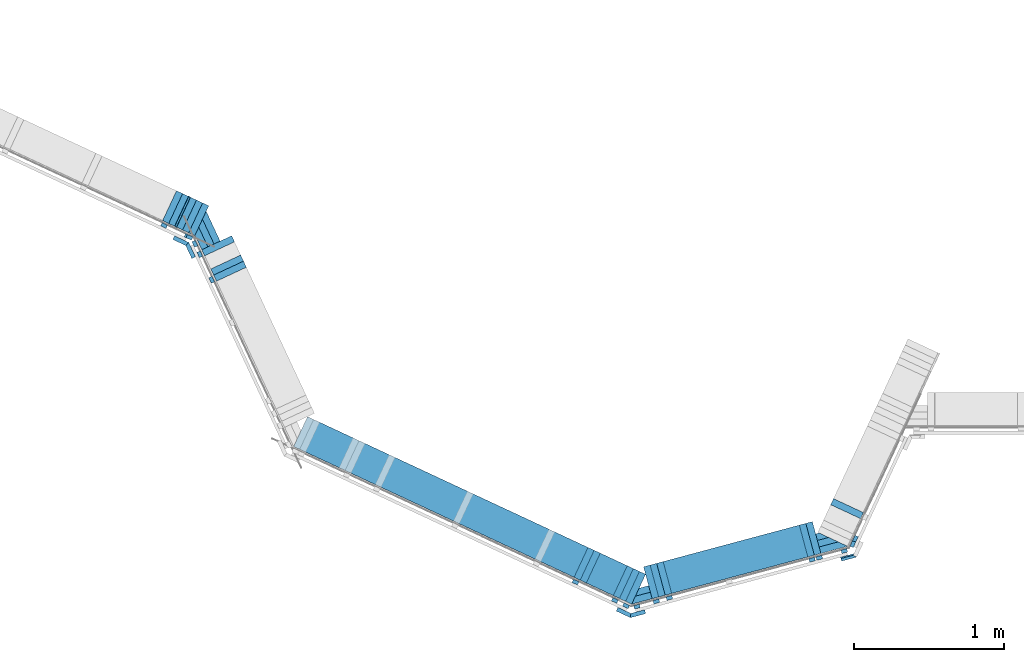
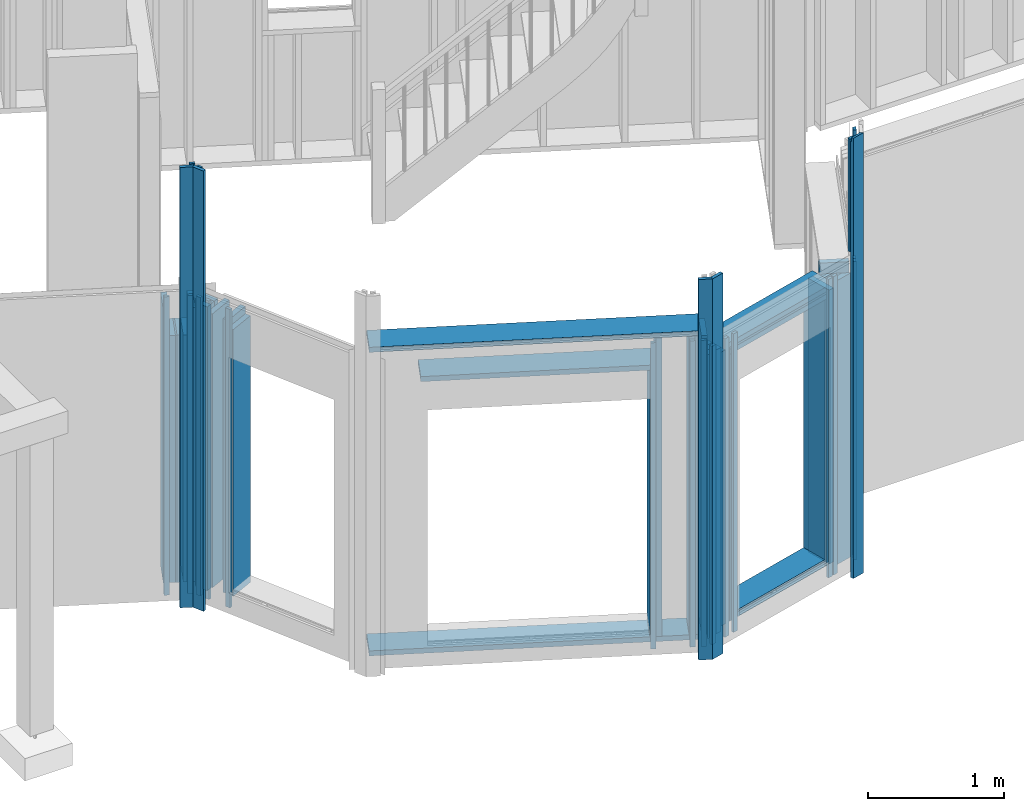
# One storey, part 9 of 34: 60 members.
"""IFC2X3 building model written with IfcOpenShell, lengths in metres."""

from ifc_helpers import new_model, si_unit, direction, frame, origin_with_axes, place, context, subcontext, project, spatial, faceted_brep, material, element, save


model = new_model("IFC2X3")

# Units and contexts
model_context = context("Model", 3, precision=1e-06, world=origin_with_axes(), true_north=direction((0.0, 1.0, 0.0)))
body_context = subcontext(model_context, "Body", "Model", "MODEL_VIEW")
ifc_project = project(units=[si_unit("LENGTHUNIT", "METRE"), si_unit("AREAUNIT", "SQUARE_METRE"), si_unit("VOLUMEUNIT", "CUBIC_METRE"), si_unit("PLANEANGLEUNIT", "RADIAN")], contexts=[model_context])

# Site, building, storey
site_placement = place(None, origin_with_axes())
site = spatial("IfcSite", under=ifc_project, at=site_placement, CompositionType="ELEMENT")
building_placement = place(site_placement, origin_with_axes())
building = spatial("IfcBuilding", under=site, at=building_placement, Name="Building 1", CompositionType="ELEMENT")
storey_placement = place(building_placement, origin_with_axes())
storey = spatial("IfcBuildingStorey", under=building, at=storey_placement, Name="Rez de chaussée", CompositionType="ELEMENT", Elevation=0.0)

# Members
ifc_material_1 = material(Name="NH II")
member_1_placement = place(storey_placement, frame((11.4831538, -1.5620432, -0.08), z_axis=(-0.9659258, -0.258819, 0.0), x_axis=(0.0, 0.0, 1.0)))
element("IfcMember", 1, at=member_1_placement, inside=storey, material=ifc_material_1, Name="Couvre joint", context=body_context, shape_type="Brep", body=[
    faceted_brep([(0.0, 0.0135, 0.0426728), (0.0, -0.0135, 0.0525), (3.4036496, -0.0135, 0.0525), (3.4036496, 0.0135, 0.0426728), (0.0, 0.0135, -0.0525), (0.0, -0.0135, -0.0525), (3.4036496, -0.0135, -0.0525), (3.4036496, 0.0135, -0.0525)], [[[0, 1, 2, 3]], [[1, 0, 4, 5]], [[3, 2, 6, 7]], [[6, 5, 4, 7]], [[2, 1, 5, 6]], [[0, 3, 7, 4]]]),
])
ifc_material_2 = material(Name="Epicéa C24")
member_2_placement = place(storey_placement, frame((11.167484, -1.2483309, 2.76), z_axis=(-0.4226183, -0.9063078, 0.0), x_axis=(0.0, 0.0, -1.0)))
element("IfcMember", 2, at=member_2_placement, inside=storey, material=ifc_material_2, Name="Montant", context=body_context, shape_type="Brep", body=[
    faceted_brep([(2.67, -0.0225, -0.11), (2.67, 0.0225, -0.11), (2.67, 0.0225, 0.11), (2.67, -0.0225, 0.11), (0.0, -0.0225, -0.11), (0.0, -0.0225, 0.11), (0.0, 0.0225, -0.11), (0.0, 0.0225, 0.11)], [[[0, 1, 2, 3]], [[4, 0, 3, 5]], [[1, 0, 4, 6]], [[2, 1, 6, 7]], [[3, 2, 7, 5]], [[5, 7, 6, 4]]]),
])
member_3_placement = place(storey_placement, frame((12.8619997, -1.1444422, 3.8192383), z_axis=(0.258819, -0.9659258, 0.0), x_axis=(0.0, 0.0, -1.0)))
element("IfcMember", 3, at=member_3_placement, inside=storey, material=ifc_material_2, Name="latte chantier", context=body_context, shape_type="Brep", body=[
    faceted_brep([(1.0092383, 0.02, -0.012), (1.0092383, 0.02, 0.012), (1.0092383, -0.02, 0.012), (1.0092383, -0.02, -0.012), (0.0, 0.02, 0.012), (0.0, 0.02, -0.012), (0.0, -0.02, -0.012), (0.0, -0.02, 0.012)], [[[0, 1, 2, 3]], [[4, 5, 6, 7]], [[3, 6, 5, 0]], [[2, 7, 6, 3]], [[1, 4, 7, 2]], [[0, 5, 4, 1]]]),
])
member_4_placement = place(storey_placement, frame((8.475034, 1.1060486, 2.3), z_axis=(-0.4226183, -0.9063078, 0.0), x_axis=(0.0, 0.0, -1.0)))
element("IfcMember", 4, at=member_4_placement, inside=storey, material=ifc_material_2, Name="Montant", context=body_context, shape_type="Brep", body=[
    faceted_brep([(2.21, -0.0225, -0.11), (2.21, -0.0225, 0.11), (0.0, -0.0225, 0.11), (0.0, -0.0225, -0.11), (2.21, 0.0225, -0.11), (0.0, 0.0225, -0.11), (2.21, 0.0225, 0.11), (0.0, 0.0225, 0.11)], [[[0, 1, 2, 3]], [[4, 0, 3, 5]], [[6, 4, 5, 7]], [[1, 6, 7, 2]], [[0, 4, 6, 1]], [[2, 7, 5, 3]]]),
])
member_5_placement = place(storey_placement, frame((12.890587, -1.1849226, -0.08), z_axis=(-0.9659258, -0.258819, 0.0), x_axis=(0.0, 0.0, 1.0)))
element("IfcMember", 5, at=member_5_placement, inside=storey, material=ifc_material_1, Name="Couvre joint", context=body_context, shape_type="Brep", body=[
    faceted_brep([(3.9325051, 0.0113832, -0.0381335), (3.9303617, 0.0045, -0.0323578), (0.0, 0.0045, -0.0323578), (0.0, 0.0135, -0.0399097), (3.9386408, 0.0135, -0.0399097), (3.9386408, 0.0113832, -0.0381335), (0.0, -0.0135, -0.0525), (3.9386408, 0.0045, -0.0323578), (3.9386408, -0.0135, -0.0525), (3.9315689, 0.0135, -0.0356107), (3.8988698, 0.0135, 0.0525), (3.8988698, 0.0045, 0.0525), (3.9386408, 0.0135, -0.0356107), (3.9386408, 0.0045, 0.0525), (0.0, 0.0135, 0.0525), (3.9386408, -0.0135, 0.0525), (0.0, -0.0135, 0.0525)], [[[0, 1, 2, 3, 4, 5]], [[6, 2, 1, 7, 8]], [[1, 0, 9, 10, 11]], [[0, 5, 12, 9]], [[5, 4, 12]], [[7, 1, 11, 13]], [[4, 3, 14, 10, 9, 12]], [[8, 7, 13, 15]], [[2, 6, 16, 14, 3]], [[15, 16, 6, 8]], [[11, 10, 14, 16, 15, 13]]]),
])
for number, where, z_axis, x_axis, name in (
    (6, (11.5736784, -1.3498846, 2.54), (0.258819, -0.9659258, 0.0), (0.0, 0.0, -1.0), "Montant"),
    (7, (11.6171451, -1.3382378, 2.54), (0.258819, -0.9659258, 0.0), (0.0, 0.0, -1.0), "Montant"),
):
    element("IfcMember", number, at=place(storey_placement, frame(where, z_axis=z_axis, x_axis=x_axis)), inside=storey, material=ifc_material_2, Name=name, context=body_context, shape_type="Brep", body=[
        faceted_brep([(2.45, -0.0225, -0.11), (2.45, -0.0225, 0.11), (0.0, -0.0225, 0.11), (0.0, -0.0225, -0.11), (2.45, 0.0225, -0.11), (0.0, 0.0225, -0.11), (2.45, 0.0225, 0.11), (0.0, 0.0225, 0.11)], [[[0, 1, 2, 3]], [[4, 0, 3, 5]], [[6, 4, 5, 7]], [[1, 6, 7, 2]], [[0, 4, 6, 1]], [[2, 7, 5, 3]]]),
    ])
member_6_placement = place(storey_placement, frame((11.0696466, -1.3516647, 2.745), z_axis=(-0.4226183, -0.9063078, 0.0), x_axis=(0.0, 0.0, -1.0)))
element("IfcMember", 8, at=member_6_placement, inside=storey, material=ifc_material_2, Name="latte 27/40", context=body_context, shape_type="Brep", body=[
    faceted_brep([(0.0, 0.02, 0.012), (0.0, -0.02, 0.012), (2.74, -0.02, 0.012), (2.74, 0.02, 0.012), (2.74, -0.02, -0.012), (2.74, 0.02, -0.012), (0.0, -0.02, -0.012), (0.0, 0.02, -0.012)], [[[0, 1, 2, 3]], [[3, 2, 4, 5]], [[2, 1, 6, 4]], [[1, 0, 7, 6]], [[0, 3, 5, 7]], [[6, 7, 5, 4]]]),
])
member_7_placement = place(storey_placement, frame((12.9187867, -1.0981715, 3.8536408), z_axis=(0.9063078, -0.4226183, 0.0), x_axis=(0.0, 0.0, -1.0)))
element("IfcMember", 9, at=member_7_placement, inside=storey, material=ifc_material_2, Name="latte chantier", context=body_context, shape_type="Brep", body=[
    faceted_brep([(1.0436408, 0.02, -0.012), (1.0436408, 0.02, 0.012), (1.0436408, -0.02, 0.012), (1.0436408, -0.02, -0.012), (0.0, 0.02, 0.012), (0.0, 0.02, -0.012), (0.0, -0.02, -0.012), (0.0, -0.02, 0.012)], [[[0, 1, 2, 3]], [[4, 5, 6, 7]], [[3, 6, 5, 0]], [[2, 7, 6, 3]], [[1, 4, 7, 2]], [[0, 5, 4, 1]]]),
])
member_8_placement = place(storey_placement, frame((11.4291327, -1.3703397, 2.76), z_axis=(-0.4226183, -0.9063078, 0.0), x_axis=(0.0, 0.0, -1.0)))
element("IfcMember", 10, at=member_8_placement, inside=storey, material=ifc_material_2, Name="Montant", context=body_context, shape_type="Brep", body=[
    faceted_brep([(2.67, -0.0225, -0.11), (2.67, 0.0225, -0.11), (2.67, 0.0225, 0.11), (2.67, -0.0225, 0.11), (0.0, -0.0225, -0.11), (0.0, -0.0225, 0.11), (0.0, 0.0225, -0.11), (0.0, 0.0225, 0.11)], [[[0, 1, 2, 3]], [[4, 0, 3, 5]], [[1, 0, 4, 6]], [[2, 1, 6, 7]], [[3, 2, 7, 5]], [[5, 7, 6, 4]]]),
])
member_9_placement = place(storey_placement, frame((11.3940609, -1.5542486, -0.08), z_axis=(-0.9063078, 0.4226183, 0.0), x_axis=(0.0, 0.0, 1.0)))
element("IfcMember", 11, at=member_9_placement, inside=storey, material=ifc_material_1, Name="Couvre joint", context=body_context, shape_type="Brep", body=[
    faceted_brep([(0.0, -0.0135, -0.0525), (0.0, 0.0135, -0.0426728), (3.4036496, 0.0135, -0.0426728), (3.4036496, -0.0135, -0.0525), (3.4036496, 0.0135, 0.0525), (3.4036496, -0.0135, 0.0525), (0.0, 0.0135, 0.0525), (0.0, -0.0135, 0.0525)], [[[0, 1, 2, 3]], [[3, 2, 4, 5]], [[2, 1, 6, 4]], [[1, 0, 7, 6]], [[5, 7, 0, 3]], [[4, 6, 7, 5]]]),
])
member_10_placement = place(storey_placement, frame((8.4375333, 0.9232724, -0.08), z_axis=(0.9063078, -0.4226183, 0.0), x_axis=(0.0, 0.0, 1.0)))
element("IfcMember", 12, at=member_10_placement, inside=storey, material=ifc_material_1, Name="Couvre joint", context=body_context, shape_type="Brep", body=[
    faceted_brep([(0.0, 0.0135, 0.0426728), (0.0, -0.0135, 0.0525), (3.9386408, -0.0135, 0.0525), (3.9386408, 0.0135, 0.0426728), (3.9386408, -0.0135, -0.0525), (3.9386408, 0.0135, -0.0525), (0.0, 0.0135, -0.0525), (0.0, -0.0135, -0.0525)], [[[0, 1, 2, 3]], [[3, 2, 4, 5]], [[1, 0, 6, 7]], [[4, 7, 6, 5]], [[2, 1, 7, 4]], [[0, 3, 5, 6]]]),
])
member_11_placement = place(storey_placement, frame((8.5007721, 0.8600336, -0.08), z_axis=(0.4226183, -0.9063078, 0.0), x_axis=(0.0, 0.0, 1.0)))
element("IfcMember", 13, at=member_11_placement, inside=storey, material=ifc_material_1, Name="Couvre joint", context=body_context, shape_type="Brep", body=[
    faceted_brep([(0.0, -0.0135, -0.0525), (0.0, 0.0135, -0.0426728), (3.9386408, 0.0135, -0.0426728), (3.9386408, -0.0135, -0.0525), (0.0, 0.0135, 0.0525), (3.9386408, 0.0135, 0.0525), (0.0, -0.0135, 0.0525), (3.9386408, -0.0135, 0.0525)], [[[0, 1, 2, 3]], [[2, 1, 4, 5]], [[1, 0, 6, 4]], [[3, 2, 5, 7]], [[7, 6, 0, 3]], [[5, 4, 6, 7]]]),
])
member_12_placement = place(storey_placement, frame((12.9187867, -1.0981715, 2.675), z_axis=(0.9063078, -0.4226183, 0.0), x_axis=(0.0, 0.0, -1.0)))
element("IfcMember", 14, at=member_12_placement, inside=storey, material=ifc_material_2, Name="latte chantier", context=body_context, shape_type="Brep", body=[
    faceted_brep([(2.67, 0.02, -0.012), (2.67, 0.02, 0.012), (2.67, -0.02, 0.012), (2.67, -0.02, -0.012), (0.0, 0.02, 0.012), (0.0, 0.02, -0.012), (0.0, -0.02, -0.012), (0.0, -0.02, 0.012)], [[[0, 1, 2, 3]], [[4, 5, 6, 7]], [[3, 6, 5, 0]], [[2, 7, 6, 3]], [[1, 4, 7, 2]], [[0, 5, 4, 1]]]),
])
member_13_placement = place(storey_placement, frame((12.7517418, -1.0782227, 0.045), z_axis=(0.9659258, 0.258819, 0.0), x_axis=(0.0, 0.0, 1.0)))
element("IfcMember", 15, at=member_13_placement, inside=storey, material=ifc_material_2, Name="Montant", context=body_context, shape_type="Brep", body=[
    faceted_brep([(2.54, 0.0225, -0.0657331), (0.0, 0.0225, -0.0657331), (0.0, 0.0225, 0.0657331), (2.54, 0.0225, 0.0657331), (2.54, -0.0225, -0.0657331), (0.0, -0.0225, -0.0657331), (2.54, -0.0225, 0.0121042), (0.0, -0.0225, 0.0121042)], [[[0, 1, 2, 3]], [[0, 4, 5, 1]], [[6, 7, 5, 4]], [[3, 6, 4, 0]], [[7, 6, 3, 2]], [[7, 2, 1, 5]]]),
])
member_14_placement = place(storey_placement, frame((11.6606117, -1.3265909, 2.475), z_axis=(0.258819, -0.9659258, 0.0), x_axis=(0.0, 0.0, -1.0)))
element("IfcMember", 16, at=member_14_placement, inside=storey, material=ifc_material_2, Name="Montant", context=body_context, shape_type="Brep", body=[
    faceted_brep([(2.385, -0.0225, -0.11), (2.385, 0.0225, -0.11), (2.385, 0.0225, 0.11), (2.385, -0.0225, 0.11), (0.0, -0.0225, 0.11), (0.0, -0.0225, -0.11), (0.0, 0.0225, -0.11), (0.0, 0.0225, 0.11)], [[[0, 1, 2, 3]], [[0, 3, 4, 5]], [[1, 0, 5, 6]], [[2, 1, 6, 7]], [[3, 2, 7, 4]], [[4, 7, 6, 5]]]),
])
member_15_placement = place(storey_placement, frame((11.4699165, -1.3893576, 2.76), z_axis=(-0.4226183, -0.9063078, 0.0), x_axis=(0.0, 0.0, -1.0)))
element("IfcMember", 17, at=member_15_placement, inside=storey, material=ifc_material_2, Name="Montant", context=body_context, shape_type="Brep", body=[
    faceted_brep([(2.67, -0.0225, -0.11), (2.67, 0.0225, -0.11), (2.67, 0.0225, 0.11), (2.67, -0.0225, 0.11), (0.0, -0.0225, -0.11), (0.0, -0.0225, 0.11), (0.0, 0.0225, -0.11), (0.0, 0.0225, 0.11)], [[[0, 1, 2, 3]], [[4, 0, 3, 5]], [[1, 0, 4, 6]], [[2, 1, 6, 7]], [[3, 2, 7, 5]], [[5, 7, 6, 4]]]),
])
member_16_placement = place(storey_placement, frame((11.1267001, -1.2293131, 2.475), z_axis=(-0.4226183, -0.9063078, 0.0), x_axis=(0.0, 0.0, -1.0)))
element("IfcMember", 18, at=member_16_placement, inside=storey, material=ifc_material_2, Name="Montant", context=body_context, shape_type="Brep", body=[
    faceted_brep([(2.385, -0.0225, -0.11), (2.385, 0.0225, -0.11), (2.385, 0.0225, 0.11), (2.385, -0.0225, 0.11), (0.0, -0.0225, 0.11), (0.0, -0.0225, -0.11), (0.0, 0.0225, -0.11), (0.0, 0.0225, 0.11)], [[[0, 1, 2, 3]], [[0, 3, 4, 5]], [[1, 0, 5, 6]], [[2, 1, 6, 7]], [[3, 2, 7, 4]], [[4, 7, 6, 5]]]),
])
member_17_placement = place(storey_placement, frame((8.6430098, 0.6650321, 2.675), z_axis=(-0.9063078, -0.4226183, 0.0), x_axis=(0.0, 0.0, -1.0)))
element("IfcMember", 19, at=member_17_placement, inside=storey, material=ifc_material_2, Name="latte 27/40", context=body_context, shape_type="Brep", body=[
    faceted_brep([(2.67, 0.02, -0.012), (2.67, 0.02, 0.012), (2.67, -0.02, 0.012), (2.67, -0.02, -0.012), (0.0, 0.02, 0.012), (0.0, 0.02, -0.012), (0.0, -0.02, -0.012), (0.0, -0.02, 0.012)], [[[0, 1, 2, 3]], [[4, 5, 6, 7]], [[3, 6, 5, 0]], [[2, 7, 6, 3]], [[1, 4, 7, 2]], [[0, 5, 4, 1]]]),
])
member_18_placement = place(storey_placement, frame((12.880176, -0.8615351, 2.54), z_axis=(0.9063078, -0.4226183, 0.0), x_axis=(0.0, 0.0, -1.0)))
element("IfcMember", 20, at=member_18_placement, inside=storey, material=ifc_material_2, Name="Montant", context=body_context, shape_type="Brep", body=[
    faceted_brep([(2.45, -0.0225, -0.11), (2.45, -0.0225, 0.11), (0.0, -0.0225, 0.11), (0.0, -0.0225, -0.11), (2.45, 0.0225, -0.11), (0.0, 0.0225, -0.11), (2.45, 0.0225, 0.11), (0.0, 0.0225, 0.11)], [[[0, 1, 2, 3]], [[4, 0, 3, 5]], [[6, 4, 5, 7]], [[0, 4, 6, 1]], [[7, 2, 1, 6]], [[2, 7, 5, 3]]]),
])
member_19_placement = place(storey_placement, frame((8.3826317, 1.1491365, 2.54), z_axis=(-0.4226183, -0.9063078, 0.0), x_axis=(0.0, 0.0, -1.0)))
element("IfcMember", 21, at=member_19_placement, inside=storey, material=ifc_material_2, Name="Montant", context=body_context, shape_type="Brep", body=[
    faceted_brep([(2.45, -0.0225, -0.11), (2.45, -0.0225, 0.11), (0.0, -0.0225, 0.11), (0.0, -0.0225, -0.11), (2.45, 0.0225, -0.11), (0.0, 0.0225, -0.11), (2.45, 0.0225, 0.11), (0.0, 0.0225, 0.11)], [[[0, 1, 2, 3]], [[4, 0, 3, 5]], [[6, 4, 5, 7]], [[1, 6, 7, 2]], [[0, 4, 6, 1]], [[2, 7, 5, 3]]]),
])
member_20_placement = place(storey_placement, frame((8.5670187, 0.9403902, 0.045), z_axis=(-0.4226183, 0.9063078, 0.0), x_axis=(0.0, 0.0, 1.0)))
element("IfcMember", 22, at=member_20_placement, inside=storey, material=ifc_material_2, Name="Montant", context=body_context, shape_type="Brep", body=[
    faceted_brep([(0.0, 0.0225, 0.0722405), (2.54, 0.0225, 0.0722405), (2.54, 0.0225, -0.0722405), (0.0, 0.0225, -0.0722405), (0.0, -0.0225, -0.0722405), (2.54, -0.0225, -0.0722405), (2.54, -0.0225, 0.034481), (0.0, -0.0225, 0.034481)], [[[0, 1, 2, 3]], [[4, 3, 2, 5]], [[6, 7, 4, 5]], [[1, 6, 5, 2]], [[0, 7, 6, 1]], [[7, 0, 3, 4]]]),
])
member_21_placement = place(storey_placement, frame((8.7653614, 0.7220856, 2.475), z_axis=(-0.9063078, -0.4226183, 0.0), x_axis=(0.0, 0.0, -1.0)))
element("IfcMember", 23, at=member_21_placement, inside=storey, material=ifc_material_2, Name="Montant", context=body_context, shape_type="Brep", body=[
    faceted_brep([(2.385, -0.0225, -0.11), (2.385, 0.0225, -0.11), (2.385, 0.0225, 0.11), (2.385, -0.0225, 0.11), (0.0, 0.0225, -0.11), (0.0, 0.0225, 0.11), (0.0, -0.0225, -0.11), (0.0, -0.0225, 0.11)], [[[0, 1, 2, 3]], [[2, 1, 4, 5]], [[1, 0, 6, 4]], [[0, 3, 7, 6]], [[3, 2, 5, 7]], [[7, 5, 4, 6]]]),
])
member_22_placement = place(storey_placement, frame((8.5312934, 0.9046088, 3.8347317), z_axis=(-0.9063078, -0.4226183, 0.0), x_axis=(0.0, 0.0, -1.0)))
element("IfcMember", 24, at=member_22_placement, inside=storey, material=ifc_material_2, Name="latte chantier", context=body_context, shape_type="Brep", body=[
    faceted_brep([(1.0247317, 0.02, -0.012), (1.0247317, 0.02, 0.012), (1.0247317, -0.02, 0.012), (1.0247317, -0.02, -0.012), (0.0, 0.02, 0.012), (0.0, 0.02, -0.012), (0.0, -0.02, -0.012), (0.0, -0.02, 0.012)], [[[0, 1, 2, 3]], [[4, 5, 6, 7]], [[3, 6, 5, 0]], [[2, 7, 6, 3]], [[1, 4, 7, 2]], [[0, 5, 4, 1]]]),
])
member_23_placement = place(storey_placement, frame((12.5903153, -1.0774776, 0.1435), z_axis=(0.258819, -0.9659258, 0.0), x_axis=(-0.9659258, -0.258819, 0.0)))
element("IfcMember", 25, at=member_23_placement, inside=storey, material=ifc_material_2, Name="Montant", context=body_context, shape_type="Brep", body=[
    faceted_brep([(0.0, -0.0085, 0.11), (0.94, -0.0085, 0.11), (0.94, 0.0085, 0.11), (0.0, 0.0085, 0.11), (0.0, -0.0085, -0.11), (0.94, -0.0085, -0.11), (0.0, 0.0085, -0.11), (0.94, 0.0085, -0.11)], [[[0, 1, 2, 3]], [[0, 4, 5, 1]], [[4, 0, 3, 6]], [[1, 5, 7, 2]], [[2, 7, 6, 3]], [[5, 4, 6, 7]]]),
])
member_24_placement = place(storey_placement, frame((11.5519451, -1.355708, 2.5625), z_axis=(-0.258819, 0.9659258, 0.0), x_axis=(0.9659258, 0.258819, 0.0)))
element("IfcMember", 26, at=member_24_placement, inside=storey, material=ifc_material_2, Name="Montant", context=body_context, shape_type="Brep", body=[
    faceted_brep([(1.165, 0.0225, 0.11), (1.165, -0.0225, 0.11), (1.165, -0.0225, -0.11), (1.165, 0.0225, -0.11), (0.0, -0.0225, -0.11), (0.0, -0.0225, 0.11), (0.0, 0.0225, -0.11), (0.0, 0.0225, 0.11)], [[[0, 1, 2, 3]], [[4, 2, 1, 5]], [[6, 3, 2, 4]], [[7, 0, 3, 6]], [[5, 1, 0, 7]], [[5, 7, 6, 4]]]),
])
for number, where, z_axis, x_axis, name in (
    (27, (12.6469892, -1.2020541, 2.675), (0.258819, -0.9659258, 0.0), (0.0, 0.0, -1.0), "latte 27/40"),
    (28, (8.5640081, 0.8344518, 2.675), (-0.9063078, -0.4226183, 0.0), (0.0, 0.0, -1.0), "latte 27/40"),
    (29, (12.9356914, -1.0619192, 2.675), (0.9063078, -0.4226183, 0.0), (0.0, 0.0, -1.0), "latte 27/40"),
):
    element("IfcMember", number, at=place(storey_placement, frame(where, z_axis=z_axis, x_axis=x_axis)), inside=storey, material=ifc_material_2, Name=name, context=body_context, shape_type="Brep", body=[
        faceted_brep([(2.67, 0.02, -0.012), (2.67, 0.02, 0.012), (2.67, -0.02, 0.012), (2.67, -0.02, -0.012), (0.0, 0.02, 0.012), (0.0, 0.02, -0.012), (0.0, -0.02, -0.012), (0.0, -0.02, 0.012)], [[[0, 1, 2, 3]], [[4, 5, 6, 7]], [[3, 6, 5, 0]], [[2, 7, 6, 3]], [[1, 4, 7, 2]], [[0, 5, 4, 1]]]),
    ])
member_25_placement = place(storey_placement, frame((8.6863597, 0.8915052, 2.54), z_axis=(-0.9063078, -0.4226183, 0.0), x_axis=(0.0, 0.0, -1.0)))
element("IfcMember", 30, at=member_25_placement, inside=storey, material=ifc_material_2, Name="Montant", context=body_context, shape_type="Brep", body=[
    faceted_brep([(2.45, -0.0225, -0.11), (2.45, 0.0225, -0.11), (2.45, 0.0225, 0.11), (2.45, -0.0225, 0.11), (0.0, -0.0225, 0.11), (0.0, -0.0225, -0.11), (0.0, 0.0225, -0.11), (0.0, 0.0225, 0.11)], [[[0, 1, 2, 3]], [[0, 3, 4, 5]], [[1, 0, 5, 6]], [[2, 1, 6, 7]], [[3, 2, 7, 4]], [[4, 7, 6, 5]]]),
])
member_26_placement = place(storey_placement, frame((11.6955523, -1.4569909, 2.675), z_axis=(0.258819, -0.9659258, 0.0), x_axis=(0.0, 0.0, -1.0)))
element("IfcMember", 31, at=member_26_placement, inside=storey, material=ifc_material_2, Name="latte 27/40", context=body_context, shape_type="Brep", body=[
    faceted_brep([(2.67, 0.02, -0.012), (2.67, 0.02, 0.012), (2.67, -0.02, 0.012), (2.67, -0.02, -0.012), (0.0, 0.02, 0.012), (0.0, 0.02, -0.012), (0.0, -0.02, -0.012), (0.0, -0.02, 0.012)], [[[0, 1, 2, 3]], [[4, 5, 6, 7]], [[3, 6, 5, 0]], [[2, 7, 6, 3]], [[1, 4, 7, 2]], [[0, 5, 4, 1]]]),
])
member_27_placement = place(storey_placement, frame((8.5998236, 0.9765189, 0.045), z_axis=(-0.4226183, 0.9063078, 0.0), x_axis=(0.0, 0.0, 1.0)))
element("IfcMember", 32, at=member_27_placement, inside=storey, material=ifc_material_2, Name="Montant", context=body_context, shape_type="Brep", body=[
    faceted_brep([(0.0, 0.0225, 0.0911203), (2.54, 0.0225, 0.0911203), (2.54, 0.0225, -0.0911203), (0.0, 0.0225, -0.0911203), (0.0, -0.0225, -0.0911203), (2.54, -0.0225, -0.0911203), (2.54, -0.0225, 0.0533608), (0.0, -0.0225, 0.0533608)], [[[0, 1, 2, 3]], [[4, 3, 2, 5]], [[6, 7, 4, 5]], [[1, 6, 5, 2]], [[0, 7, 6, 1]], [[7, 0, 3, 4]]]),
])
member_28_placement = place(storey_placement, frame((12.5903153, -1.0774776, 0.1125), z_axis=(0.258819, -0.9659258, 0.0), x_axis=(-0.9659258, -0.258819, 0.0)))
element("IfcMember", 33, at=member_28_placement, inside=storey, material=ifc_material_2, Name="Montant", context=body_context, shape_type="Brep", body=[
    faceted_brep([(0.0, -0.0225, 0.11), (0.94, -0.0225, 0.11), (0.94, 0.0225, 0.11), (0.0, 0.0225, 0.11), (0.94, -0.0225, -0.11), (0.94, 0.0225, -0.11), (0.0, 0.0225, -0.11), (0.0, -0.0225, -0.11)], [[[0, 1, 2, 3]], [[1, 4, 5, 2]], [[2, 5, 6, 3]], [[6, 7, 0, 3]], [[5, 4, 7, 6]], [[4, 1, 0, 7]]]),
])
member_29_placement = place(storey_placement, frame((12.633782, -1.0658307, 2.4975), z_axis=(0.258819, -0.9659258, 0.0), x_axis=(-0.9659258, -0.258819, 0.0)))
element("IfcMember", 34, at=member_29_placement, inside=storey, material=ifc_material_2, Name="Montant", context=body_context, shape_type="Brep", body=[
    faceted_brep([(0.0, 0.0225, -0.11), (0.0, -0.0225, -0.11), (0.0, -0.0225, 0.11), (0.0, 0.0225, 0.11), (1.03, 0.0225, -0.11), (1.03, -0.0225, -0.11), (1.03, 0.0225, 0.11), (1.03, -0.0225, 0.11)], [[[0, 1, 2, 3]], [[1, 0, 4, 5]], [[0, 3, 6, 4]], [[5, 4, 6, 7]], [[2, 1, 5, 7]], [[3, 2, 7, 6]]]),
])
member_30_placement = place(storey_placement, frame((8.4234156, 1.1301187, 2.3), z_axis=(-0.4226183, -0.9063078, 0.0), x_axis=(0.0, 0.0, -1.0)))
element("IfcMember", 35, at=member_30_placement, inside=storey, material=ifc_material_2, Name="Montant", context=body_context, shape_type="Brep", body=[
    faceted_brep([(2.21, -0.0225, -0.11), (2.21, -0.0225, 0.11), (0.0, -0.0225, 0.11), (0.0, -0.0225, -0.11), (2.21, 0.0225, -0.11), (0.0, 0.0225, -0.11), (2.21, 0.0225, 0.11), (0.0, 0.0225, 0.11)], [[[0, 1, 2, 3]], [[4, 0, 3, 5]], [[6, 4, 5, 7]], [[1, 6, 7, 2]], [[0, 4, 6, 1]], [[2, 7, 5, 3]]]),
])
member_31_placement = place(storey_placement, frame((8.7463435, 0.7628695, 2.54), z_axis=(-0.9063078, -0.4226183, 0.0), x_axis=(0.0, 0.0, -1.0)))
element("IfcMember", 36, at=member_31_placement, inside=storey, material=ifc_material_2, Name="Montant", context=body_context, shape_type="Brep", body=[
    faceted_brep([(2.45, -0.0225, -0.11), (2.45, 0.0225, -0.11), (2.45, 0.0225, 0.11), (2.45, -0.0225, 0.11), (0.0, -0.0225, 0.11), (0.0, -0.0225, -0.11), (0.0, 0.0225, -0.11), (0.0, 0.0225, 0.11)], [[[0, 1, 2, 3]], [[0, 3, 4, 5]], [[1, 0, 5, 6]], [[2, 1, 6, 7]], [[3, 2, 7, 4]], [[4, 7, 6, 5]]]),
])
member_32_placement = place(storey_placement, frame((12.7141942, -1.0416961, 0.045), z_axis=(0.9659258, 0.258819, 0.0), x_axis=(0.0, 0.0, 1.0)))
element("IfcMember", 37, at=member_32_placement, inside=storey, material=ifc_material_2, Name="Montant", context=body_context, shape_type="Brep", body=[
    faceted_brep([(0.0, 0.0225, 0.0389187), (2.54, 0.0225, 0.0389187), (2.54, 0.0225, -0.0389187), (0.0, 0.0225, -0.0389187), (2.54, -0.0225, -0.0389187), (0.0, -0.0225, -0.0389187), (2.54, -0.0225, -0.0147102), (0.0, -0.0225, -0.0147102)], [[[0, 1, 2, 3]], [[2, 4, 5, 3]], [[6, 7, 5, 4]], [[7, 0, 3, 5]], [[6, 1, 0, 7]], [[1, 6, 4, 2]]]),
])
member_33_placement = place(storey_placement, frame((8.6326285, 1.0126476, 0.045), z_axis=(-0.4226183, 0.9063078, 0.0), x_axis=(0.0, 0.0, 1.0)))
element("IfcMember", 38, at=member_33_placement, inside=storey, material=ifc_material_2, Name="Montant", context=body_context, shape_type="Brep", body=[
    faceted_brep([(0.0, 0.0225, -0.11), (0.0, 0.0225, 0.11), (2.54, 0.0225, 0.11), (2.54, 0.0225, -0.11), (0.0, -0.0225, -0.11), (2.54, -0.0225, -0.11), (2.54, -0.0225, 0.0722405), (0.0, -0.0225, 0.0722405)], [[[0, 1, 2, 3]], [[4, 0, 3, 5]], [[6, 7, 4, 5]], [[2, 6, 5, 3]], [[1, 7, 6, 2]], [[7, 1, 0, 4]]]),
])
member_34_placement = place(storey_placement, frame((12.633782, -1.0658307, 2.53), z_axis=(0.258819, -0.9659258, 0.0), x_axis=(-0.9659258, -0.258819, 0.0)))
element("IfcMember", 39, at=member_34_placement, inside=storey, material=ifc_material_2, Name="Montant", context=body_context, shape_type="Brep", body=[
    faceted_brep([(0.0, 0.01, -0.11), (0.0, 0.01, 0.11), (1.03, 0.01, 0.11), (1.03, 0.01, -0.11), (0.0, -0.01, 0.11), (1.03, -0.01, 0.11), (0.0, -0.01, -0.11), (1.03, -0.01, -0.11)], [[[0, 1, 2, 3]], [[2, 1, 4, 5]], [[1, 0, 6, 4]], [[0, 3, 7, 6]], [[3, 2, 5, 7]], [[4, 6, 7, 5]]]),
])
member_35_placement = place(storey_placement, frame((12.6555153, -1.0600073, 2.54), z_axis=(0.258819, -0.9659258, 0.0), x_axis=(0.0, 0.0, -1.0)))
element("IfcMember", 40, at=member_35_placement, inside=storey, material=ifc_material_2, Name="Montant", context=body_context, shape_type="Brep", body=[
    faceted_brep([(2.45, -0.0225, -0.11), (2.45, -0.0225, 0.11), (0.0, -0.0225, 0.11), (0.0, -0.0225, -0.11), (2.45, 0.0225, -0.11), (0.0, 0.0225, -0.11), (2.45, 0.0225, 0.11), (0.0, 0.0225, 0.11)], [[[0, 1, 2, 3]], [[4, 0, 3, 5]], [[6, 4, 5, 7]], [[1, 6, 7, 2]], [[0, 4, 6, 1]], [[2, 7, 5, 3]]]),
])
member_36_placement = place(storey_placement, frame((12.6120487, -1.0716541, 2.475), z_axis=(0.258819, -0.9659258, 0.0), x_axis=(0.0, 0.0, -1.0)))
element("IfcMember", 41, at=member_36_placement, inside=storey, material=ifc_material_2, Name="Montant", context=body_context, shape_type="Brep", body=[
    faceted_brep([(2.385, -0.0225, -0.11), (2.385, 0.0225, -0.11), (2.385, 0.0225, 0.11), (2.385, -0.0225, 0.11), (0.0, -0.0225, 0.11), (0.0, -0.0225, -0.11), (0.0, 0.0225, -0.11), (0.0, 0.0225, 0.11)], [[[0, 1, 2, 3]], [[0, 3, 4, 5]], [[1, 0, 5, 6]], [[2, 1, 6, 7]], [[3, 2, 7, 4]], [[4, 7, 6, 5]]]),
])
member_37_placement = place(storey_placement, frame((11.5128839, -1.4101737, 2.585), z_axis=(-0.9659258, -0.258819, 0.0), x_axis=(0.0, 0.0, -1.0)))
element("IfcMember", 42, at=member_37_placement, inside=storey, material=ifc_material_2, Name="Montant", context=body_context, shape_type="Brep", body=[
    faceted_brep([(0.0, 0.0225, 0.0518269), (2.54, 0.0225, 0.0518269), (2.54, 0.0225, -0.0518269), (0.0, 0.0225, -0.0518269), (2.54, -0.0225, -0.0518269), (0.0, -0.0225, -0.0518269), (2.54, -0.0225, 0.0140674), (0.0, -0.0225, 0.014)], [[[0, 1, 2, 3]], [[2, 4, 5, 3]], [[6, 7, 5, 4]], [[7, 0, 3, 5]], [[6, 1, 0, 7]], [[1, 6, 4, 2]]]),
])
member_38_placement = place(storey_placement, frame((11.608619, -1.4802846, 2.675), z_axis=(0.258819, -0.9659258, 0.0), x_axis=(0.0, 0.0, -1.0)))
element("IfcMember", 43, at=member_38_placement, inside=storey, material=ifc_material_2, Name="latte 27/40", context=body_context, shape_type="Brep", body=[
    faceted_brep([(2.67, 0.02, -0.012), (2.67, 0.02, 0.012), (2.67, -0.02, 0.012), (2.67, -0.02, -0.012), (0.0, 0.02, 0.012), (0.0, 0.02, -0.012), (0.0, -0.02, -0.012), (0.0, -0.02, 0.012)], [[[0, 1, 2, 3]], [[4, 5, 6, 7]], [[3, 6, 5, 0]], [[2, 7, 6, 3]], [[1, 4, 7, 2]], [[0, 5, 4, 1]]]),
])
member_39_placement = place(storey_placement, frame((11.4060657, -1.5085395, 2.745), z_axis=(-0.4226183, -0.9063078, 0.0), x_axis=(0.0, 0.0, -1.0)))
element("IfcMember", 44, at=member_39_placement, inside=storey, material=ifc_material_2, Name="latte chantier", context=body_context, shape_type="Brep", body=[
    faceted_brep([(0.0, 0.02, 0.012), (0.0, -0.02, 0.012), (2.74, -0.02, 0.012), (2.74, 0.02, 0.012), (2.74, -0.02, -0.012), (2.74, 0.02, -0.012), (0.0, -0.02, -0.012), (0.0, 0.02, -0.012)], [[[0, 1, 2, 3]], [[3, 2, 4, 5]], [[2, 1, 6, 4]], [[1, 0, 7, 6]], [[0, 3, 5, 7]], [[6, 7, 5, 4]]]),
])
member_40_placement = place(storey_placement, frame((11.3883488, -1.3513219, 2.76), z_axis=(-0.4226183, -0.9063078, 0.0), x_axis=(0.0, 0.0, -1.0)))
element("IfcMember", 45, at=member_40_placement, inside=storey, material=ifc_material_2, Name="Montant", context=body_context, shape_type="Brep", body=[
    faceted_brep([(2.67, -0.0225, -0.11), (2.67, 0.0225, -0.11), (2.67, 0.0225, 0.11), (2.67, -0.0225, 0.11), (0.0, -0.0225, -0.11), (0.0, -0.0225, 0.11), (0.0, 0.0225, -0.11), (0.0, 0.0225, 0.11)], [[[0, 1, 2, 3]], [[4, 0, 3, 5]], [[1, 0, 4, 6]], [[2, 1, 6, 7]], [[3, 2, 7, 5]], [[5, 7, 6, 4]]]),
])
member_41_placement = place(storey_placement, frame((12.6952855, -1.1891132, 2.675), z_axis=(0.258819, -0.9659258, 0.0), x_axis=(0.0, 0.0, -1.0)))
element("IfcMember", 46, at=member_41_placement, inside=storey, material=ifc_material_2, Name="latte 27/40", context=body_context, shape_type="Brep", body=[
    faceted_brep([(2.67, 0.02, -0.012), (2.67, 0.02, 0.012), (2.67, -0.02, 0.012), (2.67, -0.02, -0.012), (0.0, 0.02, 0.012), (0.0, 0.02, -0.012), (0.0, -0.02, -0.012), (0.0, -0.02, 0.012)], [[[0, 1, 2, 3]], [[4, 5, 6, 7]], [[3, 6, 5, 0]], [[2, 7, 6, 3]], [[1, 4, 7, 2]], [[0, 5, 4, 1]]]),
])
member_42_placement = place(storey_placement, frame((8.3255783, 1.0267849, 2.675), z_axis=(-0.4226183, -0.9063078, 0.0), x_axis=(0.0, 0.0, -1.0)))
element("IfcMember", 47, at=member_42_placement, inside=storey, material=ifc_material_2, Name="latte 27/40", context=body_context, shape_type="Brep", body=[
    faceted_brep([(2.67, -0.02, 0.012), (0.0, -0.02, 0.012), (0.0, -0.02, -0.012), (2.67, -0.02, -0.012), (0.0, 0.02, -0.012), (2.67, 0.02, -0.012), (0.0, 0.02, 0.012), (2.67, 0.02, 0.012)], [[[0, 1, 2, 3]], [[2, 4, 5, 3]], [[6, 7, 5, 4]], [[6, 1, 0, 7]], [[1, 6, 4, 2]], [[7, 0, 3, 5]]]),
])
member_43_placement = place(storey_placement, frame((12.7892894, -1.1147493, 0.045), z_axis=(0.9659258, 0.258819, 0.0), x_axis=(0.0, 0.0, 1.0)))
element("IfcMember", 48, at=member_43_placement, inside=storey, material=ifc_material_2, Name="Montant", context=body_context, shape_type="Brep", body=[
    faceted_brep([(2.54, 0.0225, -0.0925476), (0.0, 0.0225, -0.0925476), (0.0, 0.0225, 0.0925476), (2.54, 0.0225, 0.0925476), (2.54, -0.0225, -0.0925476), (0.0, -0.0225, -0.0925476), (2.54, -0.0225, 0.0389187), (0.0, -0.0225, 0.0389187)], [[[0, 1, 2, 3]], [[0, 4, 5, 1]], [[6, 7, 5, 4]], [[3, 6, 4, 0]], [[7, 6, 3, 2]], [[7, 2, 1, 5]]]),
])
member_44_placement = place(storey_placement, frame((8.4492248, 1.1180836, 2.3), z_axis=(-0.4226183, -0.9063078, 0.0), x_axis=(0.0, 0.0, -1.0)))
element("IfcMember", 49, at=member_44_placement, inside=storey, material=ifc_material_2, Name="Montant", context=body_context, shape_type="Brep", body=[
    faceted_brep([(0.0, -0.0059773, 0.11), (0.0, -0.006, -0.11), (2.21, -0.0059773, -0.11), (2.21, -0.0059773, 0.11), (0.0, 0.0059773, -0.11), (2.21, 0.0059773, -0.11), (0.0, 0.0059773, 0.11), (2.21, 0.0059773, 0.11)], [[[0, 1, 2, 3]], [[2, 1, 4, 5]], [[1, 0, 6, 4]], [[0, 3, 7, 6]], [[7, 5, 4, 6]], [[3, 2, 5, 7]]]),
])
member_45_placement = place(storey_placement, frame((8.4821085, 0.9537937, 2.675), z_axis=(-0.4226183, -0.9063078, 0.0), x_axis=(0.0, 0.0, -1.0)))
element("IfcMember", 50, at=member_45_placement, inside=storey, material=ifc_material_2, Name="latte chantier", context=body_context, shape_type="Brep", body=[
    faceted_brep([(2.67, -0.02, 0.012), (0.0, -0.02, 0.012), (0.0, -0.02, -0.012), (2.67, -0.02, -0.012), (0.0, 0.02, -0.012), (2.67, 0.02, -0.012), (0.0, 0.02, 0.012), (2.67, 0.02, 0.012)], [[[0, 1, 2, 3]], [[2, 4, 5, 3]], [[6, 7, 5, 4]], [[6, 1, 0, 7]], [[1, 6, 4, 2]], [[7, 0, 3, 5]]]),
])
member_46_placement = place(storey_placement, frame((11.3312953, -1.4736735, 2.745), z_axis=(-0.4226183, -0.9063078, 0.0), x_axis=(0.0, 0.0, -1.0)))
element("IfcMember", 51, at=member_46_placement, inside=storey, material=ifc_material_2, Name="latte 27/40", context=body_context, shape_type="Brep", body=[
    faceted_brep([(0.0, 0.02, 0.012), (0.0, -0.02, 0.012), (2.74, -0.02, 0.012), (2.74, 0.02, 0.012), (2.74, -0.02, -0.012), (2.74, 0.02, -0.012), (0.0, -0.02, -0.012), (0.0, 0.02, -0.012)], [[[0, 1, 2, 3]], [[3, 2, 4, 5]], [[2, 1, 6, 4]], [[1, 0, 7, 6]], [[0, 3, 5, 7]], [[6, 7, 5, 4]]]),
])
member_47_placement = place(storey_placement, frame((8.5312934, 0.9046088, 2.675), z_axis=(-0.9063078, -0.4226183, 0.0), x_axis=(0.0, 0.0, -1.0)))
element("IfcMember", 52, at=member_47_placement, inside=storey, material=ifc_material_2, Name="latte chantier", context=body_context, shape_type="Brep", body=[
    faceted_brep([(2.67, 0.02, -0.012), (2.67, 0.02, 0.012), (2.67, -0.02, 0.012), (2.67, -0.02, -0.012), (0.0, 0.02, 0.012), (0.0, 0.02, -0.012), (0.0, -0.02, -0.012), (0.0, -0.02, 0.012)], [[[0, 1, 2, 3]], [[4, 5, 6, 7]], [[3, 6, 5, 0]], [[2, 7, 6, 3]], [[1, 4, 7, 2]], [[0, 5, 4, 1]]]),
])
member_48_placement = place(storey_placement, frame((8.4950167, 0.9477745, 3.8536408), z_axis=(-0.4226183, -0.9063078, 0.0), x_axis=(0.0, 0.0, -1.0)))
element("IfcMember", 53, at=member_48_placement, inside=storey, material=ifc_material_2, Name="latte chantier", context=body_context, shape_type="Brep", body=[
    faceted_brep([(1.0036408, -0.02, -0.012), (1.0036408, -0.02, 0.012), (0.0, -0.02, 0.012), (0.0, -0.02, -0.012), (1.0036408, 0.02, -0.012), (0.0, 0.02, -0.012), (1.0036408, 0.02, 0.012), (0.0, 0.02, 0.012)], [[[0, 1, 2, 3]], [[4, 0, 3, 5]], [[6, 4, 5, 7]], [[1, 6, 7, 2]], [[4, 6, 1, 0]], [[2, 7, 5, 3]]]),
])
for number, where, z_axis, x_axis, name in (
    (54, (9.2357429, -0.3475453, 2.7825), (0.4226183, 0.9063078, 0.0), (0.9063078, -0.4226183, 0.0), "Montant"),
    (55, (9.2357429, -0.3475453, 0.0675), (0.4226183, 0.9063078, 0.0), (0.9063078, -0.4226183, 0.0), "Lisse basse"),
):
    element("IfcMember", number, at=place(storey_placement, frame(where, z_axis=z_axis, x_axis=x_axis)), inside=storey, material=ifc_material_2, Name=name, context=body_context, shape_type="Brep", body=[
        faceted_brep([(2.4876379, 0.0225, 0.11), (2.4876379, -0.0225, 0.11), (2.4876379, -0.0225, -0.11), (2.4876379, 0.0225, -0.11), (0.0, -0.0225, -0.11), (0.0, -0.0225, 0.11), (0.0, 0.0225, -0.11), (0.0, 0.0225, 0.11)], [[[0, 1, 2, 3]], [[4, 2, 1, 5]], [[6, 3, 2, 4]], [[7, 0, 3, 6]], [[5, 1, 0, 7]], [[5, 7, 6, 4]]]),
    ])
member_49_placement = place(storey_placement, frame((11.147092, -1.238822, 2.4975), z_axis=(-0.4226183, -0.9063078, 0.0), x_axis=(-0.9063078, 0.4226183, 0.0)))
element("IfcMember", 56, at=member_49_placement, inside=storey, material=ifc_material_2, Name="Montant", context=body_context, shape_type="Brep", body=[
    faceted_brep([(0.0, -0.0225, 0.11), (1.73, -0.0225, 0.11), (1.73, 0.0225, 0.11), (0.0, 0.0225, 0.11), (1.73, -0.0225, -0.11), (1.73, 0.0225, -0.11), (0.0, -0.0225, -0.11), (0.0, 0.0225, -0.11)], [[[0, 1, 2, 3]], [[1, 4, 5, 2]], [[5, 4, 6, 7]], [[4, 1, 0, 6]], [[7, 6, 0, 3]], [[2, 5, 7, 3]]]),
])
member_50_placement = place(storey_placement, frame((8.5566017, 1.068013, 2.54), z_axis=(-0.4226183, -0.9063078, 0.0), x_axis=(0.0, 0.0, -1.0)))
element("IfcMember", 57, at=member_50_placement, inside=storey, material=ifc_material_2, Name="Montant", context=body_context, shape_type="Brep", body=[
    faceted_brep([(2.45, -0.0225, -0.11), (2.45, -0.0225, 0.11), (0.0, -0.0225, 0.11), (0.0, -0.0225, -0.11), (2.45, 0.0225, -0.11), (0.0, 0.0225, -0.11), (2.45, 0.0225, 0.11), (0.0, 0.0225, 0.11)], [[[0, 1, 2, 3]], [[4, 0, 3, 5]], [[6, 4, 5, 7]], [[1, 6, 7, 2]], [[0, 4, 6, 1]], [[2, 7, 5, 3]]]),
])
member_51_placement = place(storey_placement, frame((11.5062944, -1.4585268, 2.585), z_axis=(-0.9659258, -0.258819, 0.0), x_axis=(0.0, 0.0, -1.0)))
element("IfcMember", 58, at=member_51_placement, inside=storey, material=ifc_material_2, Name="Montant", context=body_context, shape_type="Brep", body=[
    faceted_brep([(0.0, 0.0225, 0.0707066), (2.54, 0.0225, 0.0707066), (2.54, 0.0225, -0.0707066), (0.0, 0.0225, -0.0707066), (2.54, -0.0225, -0.0707066), (0.0, -0.0225, -0.0707066), (2.54, -0.0225, 0.0329472), (0.0, -0.0225, 0.0329472)], [[[0, 1, 2, 3]], [[2, 4, 5, 3]], [[6, 7, 5, 4]], [[7, 0, 3, 5]], [[6, 1, 0, 7]], [[1, 6, 4, 2]]]),
])
member_52_placement = place(storey_placement, frame((11.4792687, -1.5149439, 2.675), z_axis=(0.258819, -0.9659258, 0.0), x_axis=(0.0, 0.0, -1.0)))
element("IfcMember", 59, at=member_52_placement, inside=storey, material=ifc_material_2, Name="latte chantier", context=body_context, shape_type="Brep", body=[
    faceted_brep([(2.67, 0.02, -0.012), (2.67, 0.02, 0.012), (2.67, -0.02, 0.012), (2.67, -0.02, -0.012), (0.0, 0.02, 0.012), (0.0, 0.02, -0.012), (0.0, -0.02, -0.012), (0.0, -0.02, 0.012)], [[[0, 1, 2, 3]], [[4, 5, 6, 7]], [[3, 6, 5, 0]], [[2, 7, 6, 3]], [[1, 4, 7, 2]], [[0, 5, 4, 1]]]),
])
member_53_placement = place(storey_placement, frame((8.5158178, 1.0870308, 2.3), z_axis=(-0.4226183, -0.9063078, 0.0), x_axis=(0.0, 0.0, -1.0)))
element("IfcMember", 60, at=member_53_placement, inside=storey, material=ifc_material_2, Name="Montant", context=body_context, shape_type="Brep", body=[
    faceted_brep([(2.21, -0.0225, -0.11), (2.21, -0.0225, 0.11), (0.0, -0.0225, 0.11), (0.0, -0.0225, -0.11), (2.21, 0.0225, -0.11), (0.0, 0.0225, -0.11), (2.21, 0.0225, 0.11), (0.0, 0.0225, 0.11)], [[[0, 1, 2, 3]], [[4, 0, 3, 5]], [[6, 4, 5, 7]], [[1, 6, 7, 2]], [[0, 4, 6, 1]], [[2, 7, 5, 3]]]),
])

save(model, "model.ifc")
